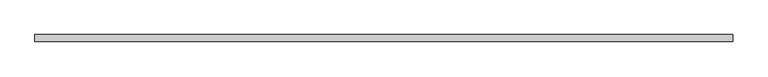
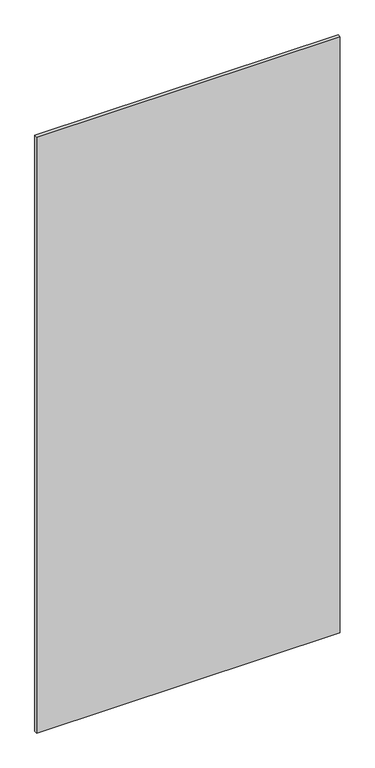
"""IFC4 building model written with IfcOpenShell, lengths in millimetres: proxy geometry."""

from ifc_helpers import new_model, si_unit, origin, origin_with_axes, place, context, project, spatial, polyline, outline, extrude, source, transform, mapped, element, save


def generic_models_f34bd56e(model_context):
    return source(origin(), model_context, "Body", "SweptSolid", [
        extrude(outline(polyline([(16150.6781692, -5.0), (15150.6781692, -5.0), (15150.6781692, 5.0), (16150.6781692, 5.0), (16150.6781692, -5.0)])), origin_with_axes(), (0.0, 0.0, 1.0), 2075.0),
    ])


if __name__ == "__main__":
    model = new_model("IFC4")
    model_context = context("Model", 3, world=origin())
    ifc_project = project(units=[si_unit("LENGTHUNIT", "METRE", prefix="MILLI")], contexts=[model_context])
    site = spatial("IfcSite", under=ifc_project)
    building = spatial("IfcBuilding", under=site)
    placement = place(None, origin())
    generic_models_shape = generic_models_f34bd56e(model_context)
    element("IfcBuildingElementProxy", 1, Name="Generic Models", at=placement, inside=building, context=model_context, shape_type="MappedRepresentation", body=[
        mapped(generic_models_shape, transform((0.0, 0.0, 0.0), x_axis=(1.0, 0.0, 0.0), y_axis=(0.0, 1.0, 0.0), z_axis=(0.0, 0.0, 1.0))),
    ])
    save(model, "model.ifc")
